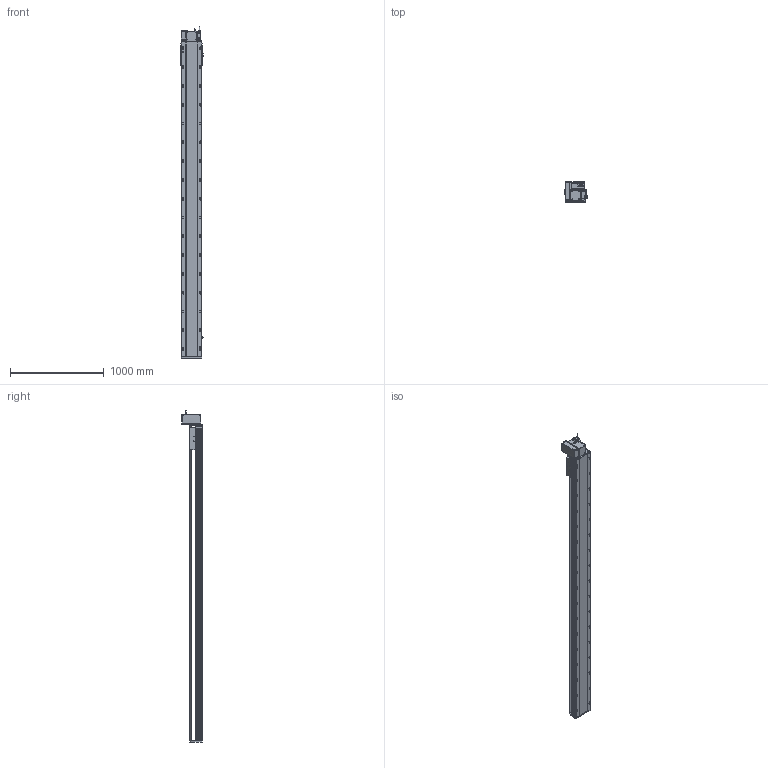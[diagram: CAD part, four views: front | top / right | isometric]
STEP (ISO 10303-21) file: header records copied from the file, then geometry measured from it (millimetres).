
FILE_DESCRIPTION (( 'STEP AP214' ), '1' );
FILE_NAME ('RTB22S-XX-3000-LW-M75-C4.STEP', '2025-12-12T07:05:37', ( '' ), ( '' ), 'SwSTEP 2.0', 'SolidWorks 2018', '' );
FILE_SCHEMA (( 'AUTOMOTIVE_DESIGN' ));
Length unit declared in the file: millimetre
Products named in the file (14): RTB22S-GY-018P^RTB22S-LW-々湍釱蚾饜_RTB22S-XX-XX-LW-M75-C4; RTB22S-GY-008-M75--萇儂啣^RTB22S-LW-々湍釱蚾饜_RTB22S-XX-XX-LW-M75-C4; OMRON EE-SX672 传感器^RTB22S-XX-XX-LW-M75-C4; RTB22S-GY-017P^RTB22S-LW-々湍釱蚾饜_RTB22S-XX-XX-LW-M75-C4; RTB22S-L-011菁釱^RTB22S-XX-XX-LW-M75-C4; RTH22-GY-013外置感应片^RTB22S-XX-XX-LW-M75-C4; RTB22S-L-004賑釱^RTB22S-XX-XX-LW-M75-C4; RTB22S-GY-014--々湍釱^RTB22S-LW-々湍釱蚾饜_RTB22S-XX-XX-LW-M75-C4; 750W萇儂^RTB22S-XX-XX-LW-M75-C4; RTB22S-XX-3000-LW-M75-C4; RTB22S-GY-005P^RTB22S-LW-々湍釱蚾饜_RTB22S-XX-XX-LW-M75-C4; RTB22S-LW-々湍釱蚾饜^RTB22S-XX-XX-LW-M75-C4; RTB22S-GY-007奻裔^RTB22S-XX-XX-LW-M75-C4; RTB22S-GY-001耜裔^RTB22S-XX-XX-LW-M75-C4
Assembly tree (16 placements, depth 3):
  RTB22S-XX-3000-LW-M75-C4
    RTB22S-L-011菁釱^RTB22S-XX-XX-LW-M75-C4
    RTB22S-GY-001耜裔^RTB22S-XX-XX-LW-M75-C4
    750W萇儂^RTB22S-XX-XX-LW-M75-C4
    RTB22S-GY-007奻裔^RTB22S-XX-XX-LW-M75-C4
    RTB22S-L-004賑釱^RTB22S-XX-XX-LW-M75-C4
    RTH22-GY-013外置感应片^RTB22S-XX-XX-LW-M75-C4
    OMRON EE-SX672 传感器^RTB22S-XX-XX-LW-M75-C4  x3
    RTB22S-LW-々湍釱蚾饜^RTB22S-XX-XX-LW-M75-C4
      RTB22S-GY-014--々湍釱^RTB22S-LW-々湍釱蚾饜_RTB22S-XX-XX-LW-M75-C4
      RTB22S-GY-017P^RTB22S-LW-々湍釱蚾饜_RTB22S-XX-XX-LW-M75-C4  x2
      RTB22S-GY-005P^RTB22S-LW-々湍釱蚾饜_RTB22S-XX-XX-LW-M75-C4
      RTB22S-GY-008-M75--萇儂啣^RTB22S-LW-々湍釱蚾饜_RTB22S-XX-XX-LW-M75-C4
      RTB22S-GY-018P^RTB22S-LW-々湍釱蚾饜_RTB22S-XX-XX-LW-M75-C4
Bounding box: 238.5 x 215.5 x 3532.2 mm (x, y, z)
Volume: 44592757.1 mm3; surface area: 4545211.9 mm2
Topology: 15 solids, 15 shells, 2145 faces, 5836 edges, 3722 vertices
Faces by surface type: plane 933, cylinder 730, bspline 296, cone 174, sphere 8, torus 4
Entity records: 58690 total; most frequent: CARTESIAN_POINT 16504, ORIENTED_EDGE 8388, DIRECTION 8228, EDGE_CURVE 4194, AXIS2_PLACEMENT_3D 2962, VERTEX_POINT 2726, VECTOR 2304, LINE 2304
